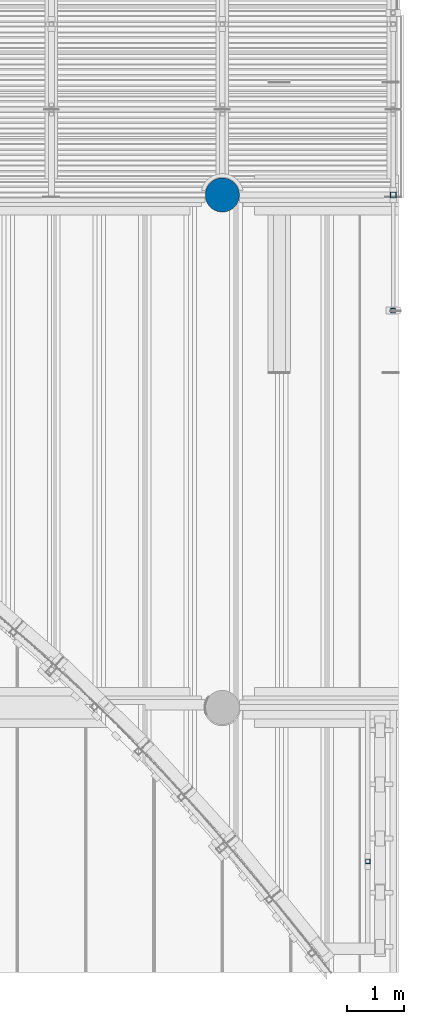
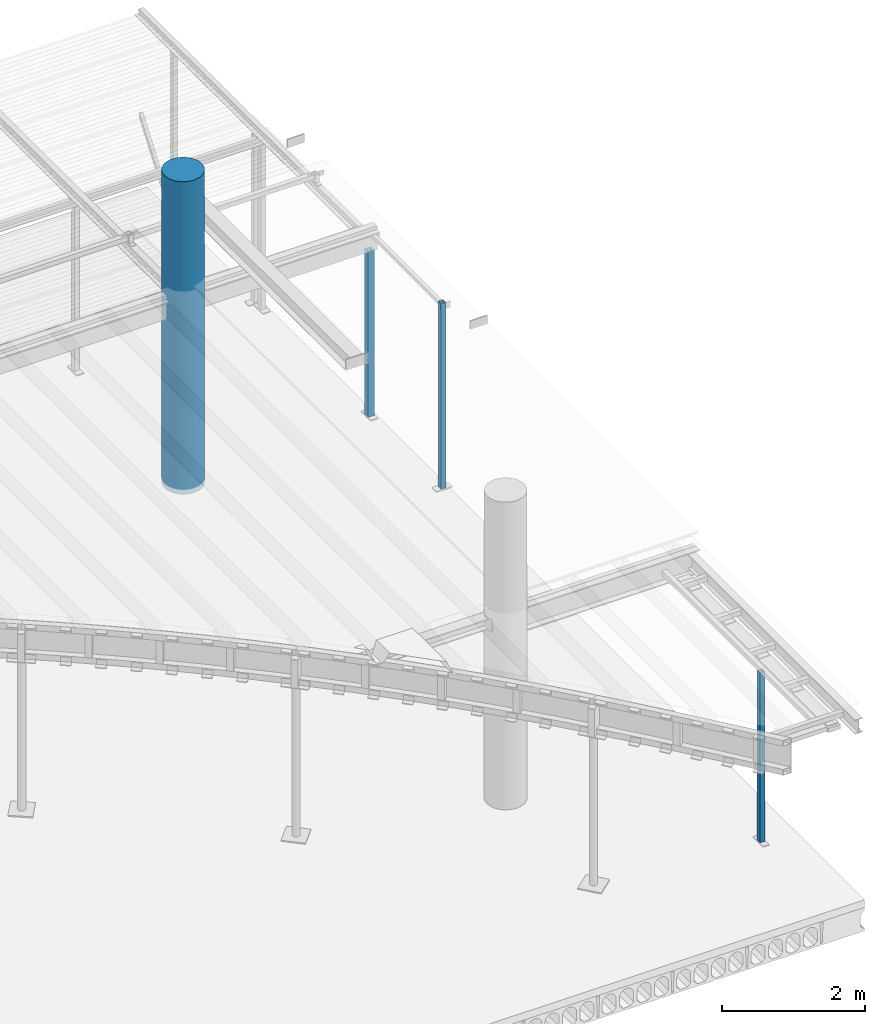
# One storey, part 3 of 98: 4 columns.
"""IFC2X3 building model written with IfcOpenShell, lengths in millimetres."""

from ifc_helpers import new_model, entity, si_unit, converted_unit, derived_unit, direction, frame, origin_with_axes, place, context, subcontext, project, spatial, faceted_brep, material, type_object, element, save


model = new_model("IFC2X3")

# Units and contexts
model_context = context("Model", 3, precision=0.01, world=frame((0.0, 4.29681676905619e-09, 0.0)), true_north=direction((4.01073788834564e-13, 1.0)))
plan_context = context("Plan", 3, precision=0.01, world=frame((0.0, 4.29681676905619e-09, 0.0)), true_north=direction((4.01073788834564e-13, 1.0)))
body_context = subcontext(model_context, "Body", "Model", "MODEL_VIEW")
ifc_project = project(units=[converted_unit("PLANEANGLEUNIT", "DEGREE", entity("IfcPositiveLengthMeasure", 0.0174532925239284), si_unit("PLANEANGLEUNIT", "RADIAN"), dimensions=[0, 0, 0, 0, 0, 0, 0]), si_unit("AREAUNIT", "SQUARE_METRE"), si_unit("LENGTHUNIT", "METRE", prefix="MILLI"), si_unit("MASSUNIT", "GRAM", prefix="KILO"), si_unit("POWERUNIT", "WATT"), si_unit("PRESSUREUNIT", "PASCAL"), si_unit("FORCEUNIT", "NEWTON", prefix="KILO"), si_unit("ELECTRICCURRENTUNIT", "AMPERE"), si_unit("THERMODYNAMICTEMPERATUREUNIT", "DEGREE_CELSIUS"), si_unit("TIMEUNIT", "SECOND"), si_unit("VOLUMEUNIT", "CUBIC_METRE"), derived_unit("LINEARVELOCITYUNIT", [(si_unit("LENGTHUNIT", "METRE"), 1), (si_unit("TIMEUNIT", "SECOND"), -1)]), derived_unit("VOLUMETRICFLOWRATEUNIT", [(si_unit("VOLUMEUNIT", "CUBIC_METRE"), 1), (si_unit("TIMEUNIT", "SECOND"), -1)]), derived_unit("THERMALTRANSMITTANCEUNIT", [(si_unit("POWERUNIT", "WATT"), 1), (si_unit("THERMODYNAMICTEMPERATUREUNIT", "KELVIN"), -1), (si_unit("AREAUNIT", "SQUARE_METRE"), -1)])], contexts=[model_context, plan_context])

# Site, building, storey
site_placement = place(None, frame((0.0, -4.29681676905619e-09, 0.0), z_axis=(0.0, 0.0, 1.0), x_axis=(1.0, 0.0, 0.0)))
site = spatial("IfcSite", under=ifc_project, at=site_placement, Name="Gardermoen", CompositionType="ELEMENT")
building_placement = place(site_placement, frame((0.0, 4.29681676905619e-09, 0.0), z_axis=(0.0, 0.0, 1.0), x_axis=(1.0, 0.0, 0.0)))
building = spatial("IfcBuilding", under=site, at=building_placement, Name="TS", CompositionType="ELEMENT")
storey_placement = place(building_placement, origin_with_axes())
storey = spatial("IfcBuildingStorey", under=building, at=storey_placement, Name="D", CompositionType="ELEMENT", Elevation=0.0)

# Columns
ifc_material_1 = material(Name="STEEL/S355")
column_type_1 = type_object("IfcColumnType", Name="RHS100*5", PredefinedType="NOTDEFINED")
column_1_placement = place(storey_placement, frame((532002.488435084, 414499.981078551, 203970.0), z_axis=(-0.999999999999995, -9.99999902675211e-08, 0.0), x_axis=(0.0, 0.0, 1.0)))
element("IfcColumn", 1, at=column_1_placement, inside=storey, type_object=column_type_1, material=ifc_material_1, Name="STÅLSØYLE", ObjectType="RHS100*5", context=body_context, shape_type="Brep", body=[
    faceted_brep([(-25.0, 45.0, -45.0), (-25.0, -45.0, -45.0), (2790.0, -45.0, -45.0), (2790.0, 45.0, -45.0), (-25.0, -45.0, 45.0), (2790.0, -45.0, 45.0), (-25.0, 45.0, 45.0), (2790.0, 45.0, 45.0), (-25.0, 50.0, -50.0), (-25.0, 50.0, 50.0), (2790.0, 50.0, 50.0), (2790.0, 50.0, -50.0), (-25.0, -50.0, 50.0), (2790.0, -50.0, 50.0), (-25.0, -50.0, -50.0), (2790.0, -50.0, -50.0)], [[[0, 1, 2, 3]], [[1, 4, 5, 2]], [[4, 6, 7, 5]], [[6, 0, 3, 7]], [[8, 9, 10, 11]], [[9, 12, 13, 10]], [[12, 14, 15, 13]], [[14, 8, 11, 15]], [[13, 15, 11, 10], [5, 7, 3, 2]], [[14, 12, 9, 8], [6, 4, 1, 0]]]),
])
column_type_2 = type_object("IfcColumnType", Name="RHS80*6", PredefinedType="NOTDEFINED")
column_2_placement = place(storey_placement, frame((531555.0, 402800.0, 203930.0), z_axis=(-0.999999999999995, -9.99999902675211e-08, 0.0), x_axis=(0.0, 0.0, 1.0)))
element("IfcColumn", 2, at=column_2_placement, inside=storey, type_object=column_type_2, material=ifc_material_1, Name="STÅLSØYLE", ObjectType="RHS80*6", context=body_context, shape_type="Brep", body=[
    faceted_brep([(10.0, 34.0, -34.0), (10.0, -34.0, -34.0), (2903.0, -34.0, -34.0), (2903.0, 34.0, -34.0), (10.0, -34.0, 34.0), (2903.0, -34.0, 34.0), (10.0, 34.0, 34.0), (2903.0, 34.0, 34.0), (10.0, 40.0, -40.0), (10.0, 40.0, 40.0), (2903.0, 40.0, 40.0), (2903.0, 40.0, -40.0), (10.0, -40.0, 40.0), (2903.0, -40.0, 40.0), (10.0, -40.0, -40.0), (2903.0, -40.0, -40.0)], [[[0, 1, 2, 3]], [[1, 4, 5, 2]], [[4, 6, 7, 5]], [[6, 0, 3, 7]], [[8, 9, 10, 11]], [[9, 12, 13, 10]], [[12, 14, 15, 13]], [[14, 8, 11, 15]], [[13, 15, 11, 10], [5, 7, 3, 2]], [[14, 12, 9, 8], [6, 4, 1, 0]]]),
])
column_type_3 = type_object("IfcColumnType", Name="RHS80*6.3", PredefinedType="NOTDEFINED")
column_3_placement = place(storey_placement, frame((531999.999317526, 412469.501660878, 203930.0), z_axis=(0.0, -1.0, 0.0), x_axis=(0.0, 0.0, 1.0)))
element("IfcColumn", 3, at=column_3_placement, inside=storey, type_object=column_type_3, material=ifc_material_1, Name="STÅLSØYLE", ObjectType="RHS80*6.3", context=body_context, shape_type="Brep", body=[
    faceted_brep([(3152.00196097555, 33.6999998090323, 1.00229881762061), (3152.00196097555, 40.0, 1.00229755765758), (3038.0019609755, 40.0, 1.00229755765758), (3038.0019609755, 33.6999998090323, 1.00229881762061), (3038.0019609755, 40.0, 15.0022975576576), (3038.0019609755, 33.6999998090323, 15.0022988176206), (3152.00196097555, 40.0, 15.0022975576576), (3152.00196097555, 33.6999998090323, 15.0022988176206), (15.0, 40.0, 40.0), (15.0, -40.0, 40.0), (3170.0018119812, -40.0, 40.0), (3170.0018119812, 40.0, 40.0), (15.0, 33.6999998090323, 33.6999998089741), (15.0, 33.6999998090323, -33.6999998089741), (3170.0018119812, 33.6999998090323, -33.6999998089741), (3170.0018119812, 33.6999998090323, 33.6999998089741), (15.0, -33.6999998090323, 33.6999998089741), (3170.0018119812, -33.6999998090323, 33.6999998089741), (15.0, -40.0, -40.0), (15.0, 40.0, -40.0), (15.0, -33.6999998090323, -33.6999998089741), (3170.0018119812, 40.0, -40.0), (3170.0018119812, -40.0, -40.0), (3038.0019609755, -40.0, 1.00231355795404), (3038.0019609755, -40.0, 15.002313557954), (3152.00196097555, -40.0, 15.002313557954), (3152.00196097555, -40.0, 1.00231355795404), (3038.0019609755, -33.6999998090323, 1.00231229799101), (3038.0019609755, -33.6999998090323, 15.002312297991), (3152.00196097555, -33.6999998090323, 1.00231229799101), (3152.00196097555, -33.6999998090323, 15.002312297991), (3170.0018119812, -33.6999998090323, -33.6999998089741)], [[[0, 1, 2, 3]], [[3, 2, 4, 5]], [[5, 4, 6, 7]], [[7, 6, 1, 0]], [[8, 9, 10, 11]], [[12, 13, 14, 15], [3, 5, 7, 0]], [[16, 12, 15, 17]], [[18, 9, 8, 19], [12, 16, 20, 13]], [[18, 19, 21, 22]], [[9, 18, 22, 10], [23, 24, 25, 26]], [[23, 27, 28, 24]], [[26, 29, 27, 23]], [[25, 30, 29, 26]], [[24, 28, 30, 25]], [[20, 16, 17, 31], [27, 29, 30, 28]], [[13, 20, 31, 14]], [[10, 22, 21, 11], [17, 15, 14, 31]], [[19, 8, 11, 21], [2, 1, 6, 4]]]),
])
ifc_material_2 = material(Name="CONCRETE/C45/55")
column_type_4 = type_object("IfcColumnType", Name="D600", PredefinedType="NOTDEFINED")
column_4_placement = place(storey_placement, frame((529000.0, 414500.0, 203845.0), z_axis=(0.0, 1.0, 0.0), x_axis=(0.0, 0.0, 1.0)))
element("IfcColumn", 4, at=column_4_placement, inside=storey, type_object=column_type_4, material=ifc_material_2, Name="PREFABSØYLE", ObjectType="D600", context=body_context, shape_type="Brep", body=[
    faceted_brep([(0.0, -300.0, 0.0), (0.0, -296.306502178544, -46.930339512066), (5325.0, -296.306502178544, -46.930339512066), (5325.0, -300.0, 0.0), (0.0, -285.31695488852, -92.7050983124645), (5325.0, -285.31695488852, -92.7050983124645), (0.0, -267.30195725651, -136.197149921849), (5325.0, -267.30195725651, -136.197149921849), (0.0, -242.705098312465, -176.335575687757), (5325.0, -242.705098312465, -176.335575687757), (0.0, -212.132034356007, -212.132034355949), (5325.0, -212.132034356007, -212.132034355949), (0.0, -176.335575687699, -242.705098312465), (5325.0, -176.335575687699, -242.705098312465), (0.0, -136.197149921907, -267.30195725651), (5325.0, -136.197149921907, -267.30195725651), (0.0, -92.7050983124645, -285.31695488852), (5325.0, -92.7050983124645, -285.31695488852), (0.0, -46.930339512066, -296.306502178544), (5325.0, -46.930339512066, -296.306502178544), (0.0, 0.0, -300.0), (5325.0, 0.0, -300.0), (0.0, 46.930339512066, -296.306502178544), (5325.0, 46.930339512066, -296.306502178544), (0.0, 92.7050983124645, -285.31695488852), (5325.0, 92.7050983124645, -285.31695488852), (0.0, 136.197149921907, -267.30195725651), (5325.0, 136.197149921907, -267.30195725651), (0.0, 176.335575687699, -242.705098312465), (5325.0, 176.335575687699, -242.705098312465), (0.0, 212.132034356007, -212.132034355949), (5325.0, 212.132034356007, -212.132034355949), (0.0, 242.705098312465, -176.335575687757), (5325.0, 242.705098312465, -176.335575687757), (0.0, 267.30195725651, -136.197149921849), (5325.0, 267.30195725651, -136.197149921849), (0.0, 285.31695488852, -92.7050983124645), (5325.0, 285.31695488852, -92.7050983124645), (0.0, 296.306502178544, -46.930339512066), (5325.0, 296.306502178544, -46.930339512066), (0.0, 300.0, 0.0), (5325.0, 300.0, 0.0), (0.0, 296.306502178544, 46.930339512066), (5325.0, 296.306502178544, 46.930339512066), (0.0, 285.31695488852, 92.7050983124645), (5325.0, 285.31695488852, 92.7050983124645), (0.0, 267.30195725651, 136.197149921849), (5325.0, 267.30195725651, 136.197149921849), (0.0, 242.705098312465, 176.335575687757), (5325.0, 242.705098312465, 176.335575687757), (0.0, 212.132034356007, 212.132034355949), (5325.0, 212.132034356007, 212.132034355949), (0.0, 176.335575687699, 242.705098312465), (5325.0, 176.335575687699, 242.705098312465), (0.0, 136.197149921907, 267.30195725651), (5325.0, 136.197149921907, 267.30195725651), (0.0, 92.7050983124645, 285.31695488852), (5325.0, 92.7050983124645, 285.31695488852), (0.0, 46.930339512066, 296.306502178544), (5325.0, 46.930339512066, 296.306502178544), (0.0, 0.0, 300.0), (5325.0, 0.0, 300.0), (0.0, -46.930339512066, 296.306502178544), (5325.0, -46.930339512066, 296.306502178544), (0.0, -92.7050983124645, 285.31695488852), (5325.0, -92.7050983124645, 285.31695488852), (0.0, -136.197149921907, 267.30195725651), (5325.0, -136.197149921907, 267.30195725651), (0.0, -176.335575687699, 242.705098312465), (5325.0, -176.335575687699, 242.705098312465), (0.0, -212.132034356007, 212.132034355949), (5325.0, -212.132034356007, 212.132034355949), (0.0, -242.705098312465, 176.335575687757), (5325.0, -242.705098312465, 176.335575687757), (0.0, -267.30195725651, 136.197149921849), (5325.0, -267.30195725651, 136.197149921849), (0.0, -285.31695488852, 92.7050983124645), (5325.0, -285.31695488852, 92.7050983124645), (0.0, -296.306502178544, 46.930339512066), (5325.0, -296.306502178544, 46.930339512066)], [[[0, 1, 2, 3]], [[1, 4, 5, 2]], [[4, 6, 7, 5]], [[6, 8, 9, 7]], [[8, 10, 11, 9]], [[10, 12, 13, 11]], [[12, 14, 15, 13]], [[14, 16, 17, 15]], [[16, 18, 19, 17]], [[18, 20, 21, 19]], [[20, 22, 23, 21]], [[22, 24, 25, 23]], [[24, 26, 27, 25]], [[26, 28, 29, 27]], [[28, 30, 31, 29]], [[30, 32, 33, 31]], [[32, 34, 35, 33]], [[34, 36, 37, 35]], [[36, 38, 39, 37]], [[38, 40, 41, 39]], [[40, 42, 43, 41]], [[42, 44, 45, 43]], [[44, 46, 47, 45]], [[46, 48, 49, 47]], [[48, 50, 51, 49]], [[50, 52, 53, 51]], [[52, 54, 55, 53]], [[54, 56, 57, 55]], [[56, 58, 59, 57]], [[58, 60, 61, 59]], [[60, 62, 63, 61]], [[62, 64, 65, 63]], [[64, 66, 67, 65]], [[66, 68, 69, 67]], [[68, 70, 71, 69]], [[70, 72, 73, 71]], [[72, 74, 75, 73]], [[74, 76, 77, 75]], [[76, 78, 79, 77]], [[78, 0, 3, 79]], [[5, 7, 9, 11, 13, 15, 17, 19, 21, 23, 25, 27, 29, 31, 33, 35, 37, 39, 41, 43, 45, 47, 49, 51, 53, 55, 57, 59, 61, 63, 65, 67, 69, 71, 73, 75, 77, 79, 3, 2]], [[78, 76, 74, 72, 70, 68, 66, 64, 62, 60, 58, 56, 54, 52, 50, 48, 46, 44, 42, 40, 38, 36, 34, 32, 30, 28, 26, 24, 22, 20, 18, 16, 14, 12, 10, 8, 6, 4, 1, 0]]]),
])

save(model, "model.ifc")
